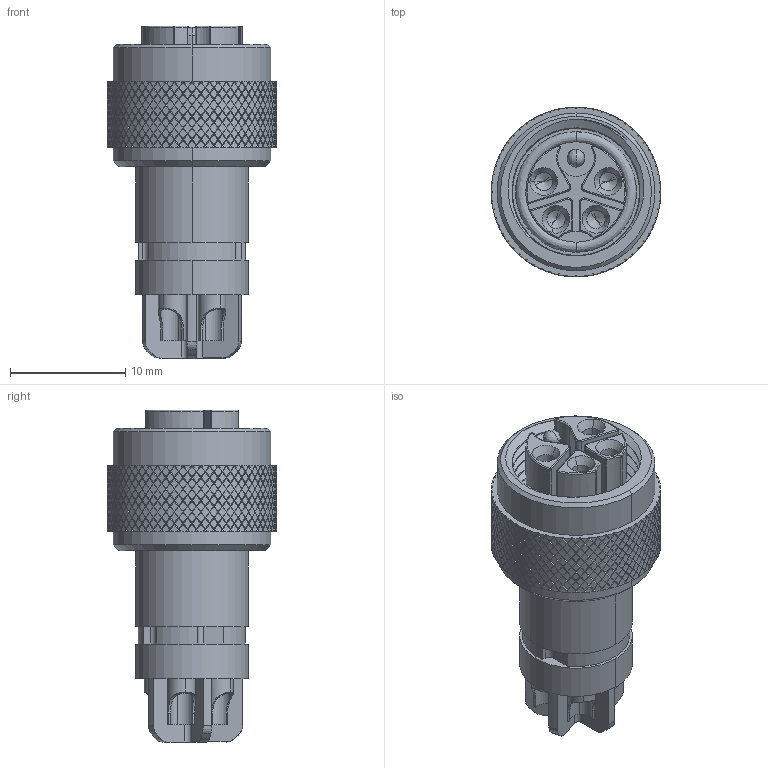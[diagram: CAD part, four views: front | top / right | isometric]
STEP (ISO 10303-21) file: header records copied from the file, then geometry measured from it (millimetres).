
FILE_DESCRIPTION (( 'STEP AP214' ), '1' );
FILE_NAME ('858-K05-203RLU4.STEP', '2025-04-17T12:50:58', ( '' ), ( '' ), 'SwSTEP 2.0', 'SolidWorks 2020', '' );
FILE_SCHEMA (( 'AUTOMOTIVE_DESIGN' ));
Length unit declared in the file: millimetre
Products named in the file (1): 858-K05-203RLU4
Bounding box: 14.7 x 14.7 x 28.8 mm (x, y, z)
Volume: 2108 mm3; surface area: 4280.7 mm2
Topology: 2 solids, 2 shells, 4253 faces, 9043 edges, 4792 vertices
Faces by surface type: bspline 3169, cylinder 926, plane 102, cone 55, torus 1
Entity records: 213776 total; most frequent: CARTESIAN_POINT 150188, ORIENTED_EDGE 18034, EDGE_CURVE 9017, B_SPLINE_CURVE_WITH_KNOTS 8012, VERTEX_POINT 4792, EDGE_LOOP 4279, FACE_OUTER_BOUND 4253, ADVANCED_FACE 4253
